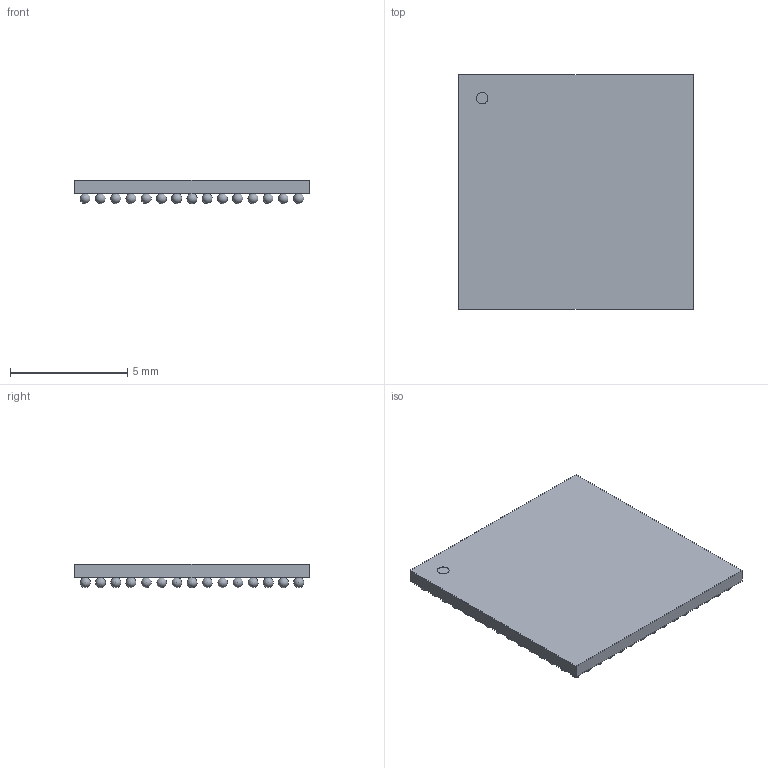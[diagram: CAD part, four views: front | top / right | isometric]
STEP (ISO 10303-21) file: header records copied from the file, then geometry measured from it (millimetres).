
FILE_DESCRIPTION(('STEP AP214'),'1');
FILE_NAME('FBGA225_EFI','2025-03-26T02:57:51',(''),(''),'','','');
FILE_SCHEMA(('AUTOMOTIVE_DESIGN'));
Length unit declared in the file: millimetre
Products named in the file (1): product
Bounding box: 10.01 x 10.01 x 0.99 mm (x, y, z)
Volume: 65.6 mm3; surface area: 354.9 mm2
Topology: 227 solids, 227 shells, 234 faces, 690 edges, 460 vertices
Faces by surface type: sphere 225, plane 8, cylinder 1
Full cylindrical faces by diameter (mm): 0.5 x1
Entity records: 2398 total; most frequent: DIRECTION 488, CARTESIAN_POINT 248, AXIS2_PLACEMENT_3D 238, STYLED_ITEM 234, ADVANCED_FACE 234, MANIFOLD_SOLID_BREP 227, CLOSED_SHELL 227, SPHERICAL_SURFACE 225
